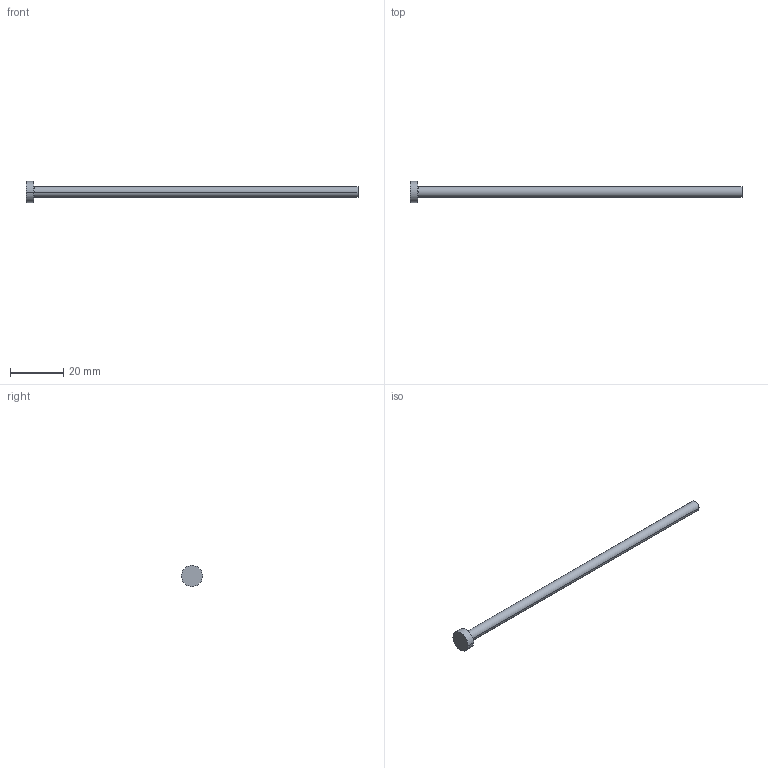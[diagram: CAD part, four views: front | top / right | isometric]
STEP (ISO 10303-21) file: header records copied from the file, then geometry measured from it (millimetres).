
FILE_DESCRIPTION (( 'STEP AP214' ), '1' );
FILE_NAME ('A-4x125.STEP', '2020-05-29T10:26:51', ( 'August' ), ( '' ), 'SwSTEP 2.0', 'SolidWorks 2018', '' );
FILE_SCHEMA (( 'AUTOMOTIVE_DESIGN' ));
Length unit declared in the file: millimetre
Products named in the file (1): A-4x125
Bounding box: 125 x 8 x 8 mm (x, y, z)
Volume: 1684.1 mm3; surface area: 1707.4 mm2
Topology: 1 solids, 1 shells, 9 faces, 16 edges, 10 vertices
Faces by surface type: cylinder 4, plane 3, torus 2
Entity records: 260 total; most frequent: DIRECTION 48, CARTESIAN_POINT 36, ORIENTED_EDGE 32, AXIS2_PLACEMENT_3D 22, EDGE_CURVE 16, CIRCLE 12, VERTEX_POINT 10, EDGE_LOOP 10
